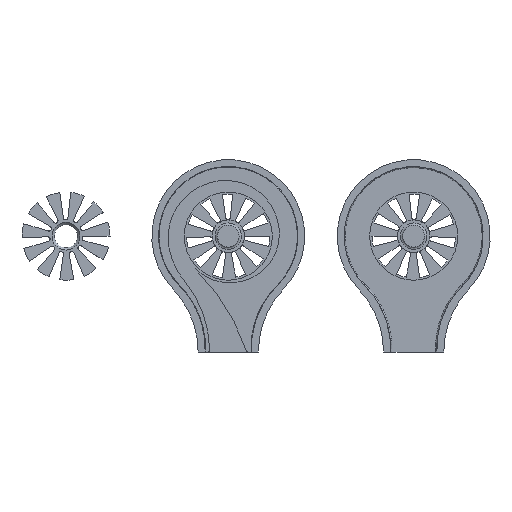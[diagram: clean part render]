
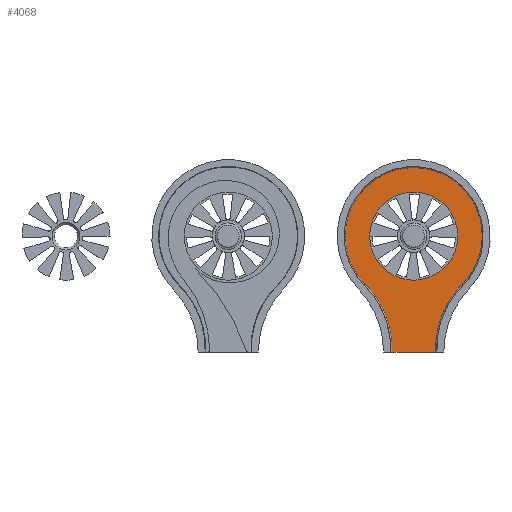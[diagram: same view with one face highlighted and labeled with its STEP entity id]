
A CAD part, top view. The second image highlights one B-rep face of the part: STEP entity #4068.
In plain terms, the highlighted planar face has unit normal (0, 0, 1).
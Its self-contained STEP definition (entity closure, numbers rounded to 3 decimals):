
#48=B_SPLINE_CURVE_WITH_KNOTS('',3,(#6955,#6956,#6957,#6958,#6959,#6960,
#6961,#6962),.UNSPECIFIED.,.F.,.F.,(4,2,2,4),(0.,1.507,2.354,
3.201),.UNSPECIFIED.);
#50=B_SPLINE_CURVE_WITH_KNOTS('',3,(#7050,#7051,#7052,#7053,#7054,#7055,
#7056,#7057,#7058,#7059,#7060,#7061,#7062,#7063,#7064,#7065,#7066,#7067,
#7068,#7069,#7070,#7071,#7072,#7073,#7074,#7075,#7076,#7077),
 .UNSPECIFIED.,.F.,.F.,(4,2,2,2,2,2,2,2,2,2,2,2,2,4),(0.,1.165,
2.33,3.495,4.66,5.825,6.99,
8.155,9.32,10.485,11.65,12.815,
13.455,14.095),.UNSPECIFIED.);
#52=B_SPLINE_CURVE_WITH_KNOTS('',3,(#7105,#7106,#7107,#7108,#7109,#7110,
#7111,#7112),.UNSPECIFIED.,.F.,.F.,(4,2,2,4),(0.002,1.507,
2.354,3.201),.UNSPECIFIED.);
#82=FACE_BOUND('',#701,.T.);
#176=PLANE('',#4524);
#476=FACE_OUTER_BOUND('',#700,.T.);
#700=EDGE_LOOP('',(#3803,#3804,#3805,#3806));
#701=EDGE_LOOP('',(#3807));
#953=LINE('',#7389,#1286);
#1286=VECTOR('',#5389,10.);
#1631=CIRCLE('',#4523,19.);
#1889=VERTEX_POINT('',#6952);
#1890=VERTEX_POINT('',#6954);
#1892=VERTEX_POINT('',#7049);
#1894=VERTEX_POINT('',#7104);
#2025=VERTEX_POINT('',#7714);
#2420=EDGE_CURVE('',#1890,#1889,#48,.T.);
#2423=EDGE_CURVE('',#1892,#1890,#50,.T.);
#2426=EDGE_CURVE('',#1894,#1892,#52,.T.);
#2467=EDGE_CURVE('',#1889,#1894,#953,.T.);
#2634=EDGE_CURVE('',#2025,#2025,#1631,.T.);
#3803=ORIENTED_EDGE('',*,*,#2467,.T.);
#3804=ORIENTED_EDGE('',*,*,#2426,.T.);
#3805=ORIENTED_EDGE('',*,*,#2423,.T.);
#3806=ORIENTED_EDGE('',*,*,#2420,.T.);
#3807=ORIENTED_EDGE('',*,*,#2634,.F.);
#4068=ADVANCED_FACE('',(#476,#82),#176,.F.);
#4523=AXIS2_PLACEMENT_3D('',#7715,#5734,#5735);
#4524=AXIS2_PLACEMENT_3D('',#7717,#5737,#5738);
#5389=DIRECTION('',(1.,0.,0.));
#5734=DIRECTION('center_axis',(0.,0.,1.));
#5735=DIRECTION('ref_axis',(-1.,0.,0.));
#5737=DIRECTION('center_axis',(0.,0.,-1.));
#5738=DIRECTION('ref_axis',(-1.,0.,0.));
#6952=CARTESIAN_POINT('',(70.178,-50.,2.));
#6954=CARTESIAN_POINT('',(58.907,-21.082,2.));
#6955=CARTESIAN_POINT('Ctrl Pts',(58.907,-21.082,2.));
#6956=CARTESIAN_POINT('Ctrl Pts',(62.46,-24.634,2.));
#6957=CARTESIAN_POINT('Ctrl Pts',(65.286,-28.845,2.));
#6958=CARTESIAN_POINT('Ctrl Pts',(68.313,-36.084,2.));
#6959=CARTESIAN_POINT('Ctrl Pts',(69.114,-38.799,2.));
#6960=CARTESIAN_POINT('Ctrl Pts',(70.107,-44.356,2.));
#6961=CARTESIAN_POINT('Ctrl Pts',(70.297,-47.18,2.));
#6962=CARTESIAN_POINT('Ctrl Pts',(70.178,-50.,2.));
#7049=CARTESIAN_POINT('',(101.082,-21.093,2.));
#7050=CARTESIAN_POINT('Ctrl Pts',(101.082,-21.093,2.));
#7051=CARTESIAN_POINT('Ctrl Pts',(103.829,-18.348,2.));
#7052=CARTESIAN_POINT('Ctrl Pts',(106.013,-15.092,2.));
#7053=CARTESIAN_POINT('Ctrl Pts',(109.01,-7.927,2.));
#7054=CARTESIAN_POINT('Ctrl Pts',(109.795,-4.086,2.));
#7055=CARTESIAN_POINT('Ctrl Pts',(109.848,3.68,2.));
#7056=CARTESIAN_POINT('Ctrl Pts',(109.116,7.531,2.));
#7057=CARTESIAN_POINT('Ctrl Pts',(106.216,14.736,2.));
#7058=CARTESIAN_POINT('Ctrl Pts',(104.076,18.021,2.));
#7059=CARTESIAN_POINT('Ctrl Pts',(98.659,23.586,2.));
#7060=CARTESIAN_POINT('Ctrl Pts',(95.432,25.812,2.));
#7061=CARTESIAN_POINT('Ctrl Pts',(88.307,28.904,2.));
#7062=CARTESIAN_POINT('Ctrl Pts',(84.477,29.739,2.));
#7063=CARTESIAN_POINT('Ctrl Pts',(76.712,29.894,2.));
#7064=CARTESIAN_POINT('Ctrl Pts',(72.852,29.212,2.));
#7065=CARTESIAN_POINT('Ctrl Pts',(65.609,26.407,2.));
#7066=CARTESIAN_POINT('Ctrl Pts',(62.296,24.311,2.));
#7067=CARTESIAN_POINT('Ctrl Pts',(56.661,18.967,2.));
#7068=CARTESIAN_POINT('Ctrl Pts',(54.392,15.77,2.));
#7069=CARTESIAN_POINT('Ctrl Pts',(51.208,8.686,2.));
#7070=CARTESIAN_POINT('Ctrl Pts',(50.323,4.867,2.));
#7071=CARTESIAN_POINT('Ctrl Pts',(50.066,-2.895,2.));
#7072=CARTESIAN_POINT('Ctrl Pts',(50.697,-6.764,2.));
#7073=CARTESIAN_POINT('Ctrl Pts',(52.796,-12.403,2.));
#7074=CARTESIAN_POINT('Ctrl Pts',(53.752,-14.317,2.));
#7075=CARTESIAN_POINT('Ctrl Pts',(56.057,-17.907,2.));
#7076=CARTESIAN_POINT('Ctrl Pts',(57.399,-19.573,2.));
#7077=CARTESIAN_POINT('Ctrl Pts',(58.907,-21.082,2.));
#7104=CARTESIAN_POINT('',(89.822,-50.,2.));
#7105=CARTESIAN_POINT('Ctrl Pts',(89.822,-50.,2.));
#7106=CARTESIAN_POINT('Ctrl Pts',(89.61,-44.986,2.));
#7107=CARTESIAN_POINT('Ctrl Pts',(90.378,-39.978,2.));
#7108=CARTESIAN_POINT('Ctrl Pts',(93.042,-32.604,2.));
#7109=CARTESIAN_POINT('Ctrl Pts',(94.29,-30.062,2.));
#7110=CARTESIAN_POINT('Ctrl Pts',(97.316,-25.298,2.));
#7111=CARTESIAN_POINT('Ctrl Pts',(99.087,-23.089,2.));
#7112=CARTESIAN_POINT('Ctrl Pts',(101.082,-21.093,2.));
#7389=CARTESIAN_POINT('',(73.5,-50.,2.));
#7714=CARTESIAN_POINT('',(99.,0.,2.));
#7715=CARTESIAN_POINT('Origin',(80.,0.,2.));
#7717=CARTESIAN_POINT('Origin',(80.,-8.5,2.));
